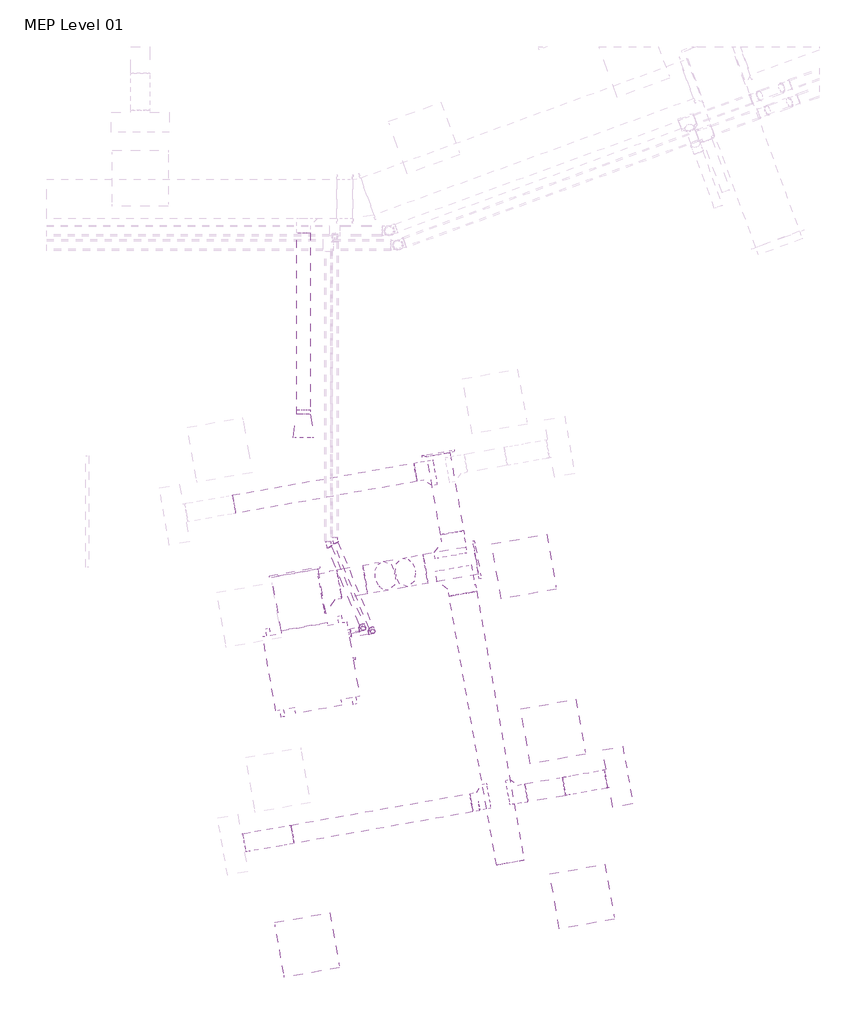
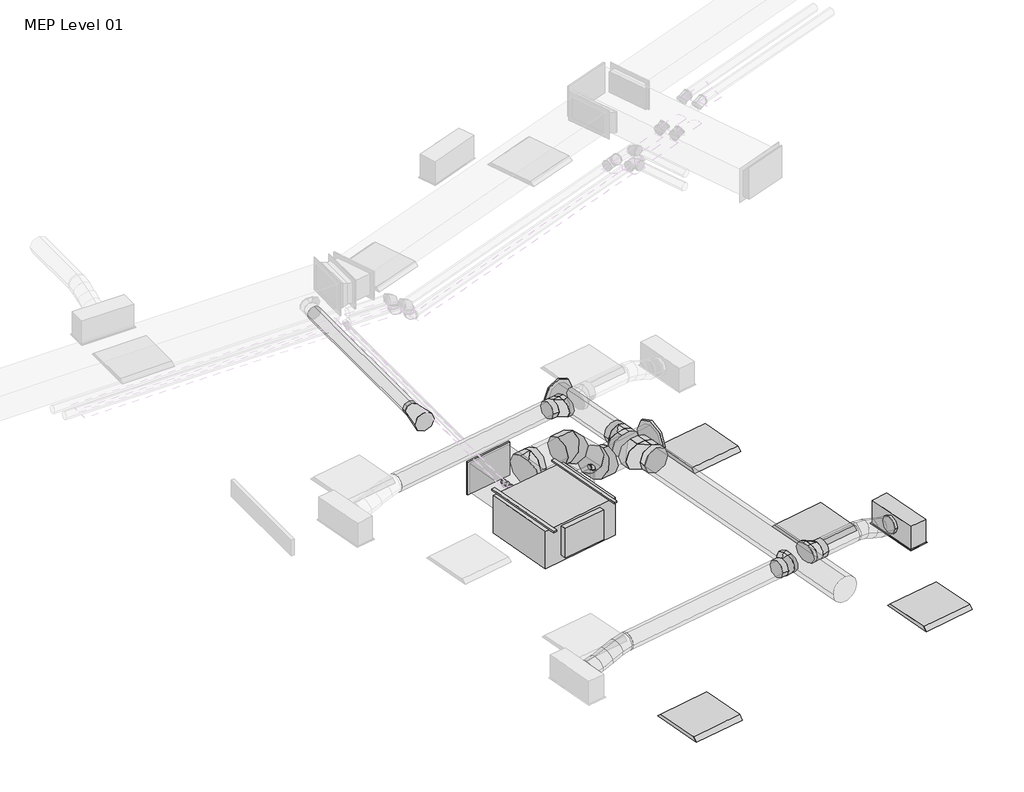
# One storey, part 15 of 29: 12 duct segments, 11 duct fittings, 6 pipe fittings, 6 pipe segments, 4 light fixtures, 2 air terminals, 1 proxy.
"""IFC4 building model written with IfcOpenShell, lengths in millimetres."""

from ifc_helpers import new_model, si_unit, point, frame, frame_2d, origin, place, context, project, spatial, polyline, circle_curve, ellipse_curve, trimmed, segment, composite_curve, outline, extrude, transform, mapped, element, save
from ifc_brep_helpers import plane_surface, cylinder_surface, advanced_brep
from components import air_terminal_b88b8e4d, supply_diffuser_with_plenum_linear_slot_hosted_8e4f2f20, fan_coil_unit_ceiling_ducted_chw_376_lps_48d57206, dw144_rectangular_blank_end_standard_8fde7d16, dw144_round_blank_end_standard_9aa061e7, dw144_round_blank_end_standard_4853e871, dw144_round_segmented_bend_slip_joint_standard_b708e37c, dw144_round_shoe_branch_slip_joint_standard_559552f4, dw144_round_shoe_branch_slip_joint_standard_3a899113, dw144_round_shoe_branch_slip_joint_standard_809a1802, dw144_round_shoe_branch_slip_joint_standard_2e838f3e, dw144_round_shoe_branch_slip_joint_standard_78bd87b2, light_fixture_600x600_230_1c7c1157, light_fixture_600x600_230_b730b5ca, elbow_threaded_gmi_standard_b4aa7741, elbow_threaded_gmi_standard_b1050e4a

model = new_model("IFC4")

# Units and contexts
model_context = context("Model", 3, world=origin())
ifc_project = project(units=[si_unit("LENGTHUNIT", "METRE", prefix="MILLI")], contexts=[model_context])

# Site, building, storey
site = spatial("IfcSite", under=ifc_project)
building = spatial("IfcBuilding", under=site)
storey = spatial("IfcBuildingStorey", under=building, Name="MEP Level 01", Elevation=3900.0)

# Air terminals
placement = place(None, origin())
air_terminal_shape = air_terminal_b88b8e4d(model_context)
element("IfcAirTerminal", 1, ObjectType="Supply_Bell_Mouth_Grille : Supply_Bell_Mouth_Grille", at=placement, inside=storey, context=model_context, shape_type="MappedRepresentation", body=[
    mapped(air_terminal_shape, transform((32516.0156498, 6826.9163123, 7025.0), x_axis=(0.0, -1.0, 0.0), y_axis=(1.0, 0.0, 0.0), z_axis=(0.0, 0.0, 1.0))),
])
supply_diffuser_with_plenum_linear_slot_hosted_shape = supply_diffuser_with_plenum_linear_slot_hosted_8e4f2f20(model_context)
element("IfcAirTerminal", 2, ObjectType="Supply Diffuser with Plenum - Linear Slot - Hosted : 600mmx193.8mm-200 In Inlet  4-Slot", at=placement, inside=storey, context=model_context, shape_type="MappedRepresentation", body=[
    mapped(supply_diffuser_with_plenum_linear_slot_hosted_shape, transform((35891.5400303, 2932.607447, 6700.0), x_axis=(0.1736481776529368, -0.9848077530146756, 0.0), y_axis=(-0.9848077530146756, -0.1736481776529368, 0.0), z_axis=(0.0, 0.0, -1.0))),
])

# Proxy
fan_coil_unit_ceiling_ducted_chw_376_lps_shape = fan_coil_unit_ceiling_ducted_chw_376_lps_48d57206(model_context)
element("IfcBuildingElementProxy", 3, Name="Fan Coil Unit - Ceiling Ducted - CHW : 376 LPS", ObjectType="Fan Coil Unit - Ceiling Ducted - CHW : 376 LPS", at=placement, inside=storey, context=model_context, shape_type="MappedRepresentation", body=[
    mapped(fan_coil_unit_ceiling_ducted_chw_376_lps_shape, transform((32078.1076261, 4440.8551668, 7115.575), x_axis=(0.9848077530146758, 0.17364817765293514, 0.0), y_axis=(-0.17364817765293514, 0.9848077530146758, 0.0), z_axis=(0.0, 0.0, 1.0))),
])

# Duct fittings
dw144_rectangular_blank_end_standard_shape = dw144_rectangular_blank_end_standard_8fde7d16(model_context)
element("IfcDuctFitting", 4, ObjectType="DW144 Rectangular Blank End : Standard", at=placement, inside=storey, context=model_context, shape_type="MappedRepresentation", body=[
    mapped(dw144_rectangular_blank_end_standard_shape, transform((32422.2764887, 5121.8864184, 7369.575), x_axis=(-0.17364817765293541, 0.9848077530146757, 0.0), y_axis=(-0.9848077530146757, -0.17364817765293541, 0.0), z_axis=(0.0, 0.0, 1.0))),
])
dw144_round_blank_end_standard_shape = dw144_round_blank_end_standard_9aa061e7(model_context)
element("IfcDuctFitting", 5, ObjectType="DW144 Round Blank End : Standard", at=placement, inside=storey, context=model_context, shape_type="MappedRepresentation", body=[
    mapped(dw144_round_blank_end_standard_shape, transform((33964.3374984, 6395.1276548, 6972.2088531), x_axis=(-0.17364817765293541, 0.9848077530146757, 0.0), y_axis=(-0.9848077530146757, -0.17364817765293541, 0.0), z_axis=(0.0, 0.0, 1.0))),
])
dw144_round_blank_end_standard_2_shape = dw144_round_blank_end_standard_4853e871(model_context)
element("IfcDuctFitting", 6, ObjectType="DW144 Round Blank End : Standard", at=placement, inside=storey, context=model_context, shape_type="MappedRepresentation", body=[
    mapped(dw144_round_blank_end_standard_2_shape, transform((34369.0625875, 5262.3090931, 6972.2088531), x_axis=(0.9848077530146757, 0.17364817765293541, 0.0), y_axis=(-0.17364817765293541, 0.9848077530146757, 0.0), z_axis=(0.0, 0.0, 1.0))),
])
dw144_round_segmented_bend_slip_joint_standard_shape = dw144_round_segmented_bend_slip_joint_standard_b708e37c(model_context)
element("IfcDuctFitting", 7, ObjectType="DW144 Round Segmented Bend - Slip Joint : Standard", at=placement, inside=storey, context=model_context, shape_type="MappedRepresentation", body=[
    mapped(dw144_round_segmented_bend_slip_joint_standard_shape, transform((33698.5416533, 5144.0781613, 6972.2088531), x_axis=(0.6963642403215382, 0.12278780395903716, -0.7071067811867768), y_axis=(-0.6963642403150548, -0.1227878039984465, -0.7071067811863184), z_axis=(-0.17364817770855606, 0.9848077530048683, 0.0))),
])
element("IfcDuctFitting", 8, ObjectType="DW144 Round Segmented Bend - Slip Joint : Standard", at=placement, inside=storey, context=model_context, shape_type="MappedRepresentation", body=[
    mapped(dw144_round_segmented_bend_slip_joint_standard_shape, transform((33307.2123911, 5075.0762541, 7369.575), x_axis=(0.9848077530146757, 0.17364817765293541, 0.0), y_axis=(0.0, 0.0, 1.0), z_axis=(0.17364817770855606, -0.9848077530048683, 0.0))),
])
dw144_round_shoe_branch_slip_joint_standard_shape = dw144_round_shoe_branch_slip_joint_standard_559552f4(model_context)
element("IfcDuctFitting", 9, ObjectType="DW144 Round Shoe Branch - Slip Joint : Standard", at=placement, inside=storey, context=model_context, shape_type="MappedRepresentation", body=[
    mapped(dw144_round_shoe_branch_slip_joint_standard_shape, transform((33866.3411855, 6231.0460521, 6972.2088531), x_axis=(-0.9848077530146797, -0.17364817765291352, 0.0), y_axis=(0.17364817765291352, -0.9848077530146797, 0.0), z_axis=(0.0, 0.0, 1.0))),
])
dw144_round_shoe_branch_slip_joint_standard_2_shape = dw144_round_shoe_branch_slip_joint_standard_3a899113(model_context)
element("IfcDuctFitting", 10, ObjectType="DW144 Round Shoe Branch - Slip Joint : Standard", at=placement, inside=storey, context=model_context, shape_type="MappedRepresentation", body=[
    mapped(dw144_round_shoe_branch_slip_joint_standard_2_shape, transform((34466.8544313, 2681.3969368, 6972.2088531), x_axis=(-0.9848077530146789, -0.17364817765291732, 0.0), y_axis=(0.17364817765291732, -0.9848077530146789, 0.0), z_axis=(0.0, 0.0, 1.0))),
])
element("IfcDuctFitting", 11, ObjectType="DW144 Round Shoe Branch - Slip Joint : Standard", at=placement, inside=storey, context=model_context, shape_type="MappedRepresentation", body=[
    mapped(dw144_round_shoe_branch_slip_joint_standard_2_shape, transform((34762.2967572, 2733.4913901, 6972.2088531), x_axis=(0.9848077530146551, 0.1736481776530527, 0.0), y_axis=(0.1736481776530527, -0.9848077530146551, 0.0), z_axis=(0.0, 0.0, -1.0))),
])
dw144_round_shoe_branch_slip_joint_standard_3_shape = dw144_round_shoe_branch_slip_joint_standard_809a1802(model_context)
element("IfcDuctFitting", 12, ObjectType="DW144 Round Shoe Branch - Slip Joint : Standard", at=placement, inside=storey, context=model_context, shape_type="MappedRepresentation", body=[
    mapped(dw144_round_shoe_branch_slip_joint_standard_3_shape, transform((32703.167519, 4968.5668456, 7369.575), x_axis=(0.9848077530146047, 0.17364817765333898, 0.0), y_axis=(-0.17364817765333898, 0.9848077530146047, 0.0), z_axis=(0.0, 0.0, 1.0))),
])
dw144_round_shoe_branch_slip_joint_standard_4_shape = dw144_round_shoe_branch_slip_joint_standard_2e838f3e(model_context)
element("IfcDuctFitting", 13, ObjectType="DW144 Round Shoe Branch - Slip Joint : Standard", at=placement, inside=storey, context=model_context, shape_type="MappedRepresentation", body=[
    mapped(dw144_round_shoe_branch_slip_joint_standard_4_shape, transform((34142.9152485, 5382.362907, 6972.2088531), x_axis=(-0.17364817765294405, 0.9848077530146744, 0.0), y_axis=(0.9848077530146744, 0.17364817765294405, 0.0), z_axis=(0.0, 0.0, -1.0))),
])
dw144_round_shoe_branch_slip_joint_standard_5_shape = dw144_round_shoe_branch_slip_joint_standard_78bd87b2(model_context)
element("IfcDuctFitting", 14, ObjectType="DW144 Round Shoe Branch - Slip Joint : Standard", at=placement, inside=storey, context=model_context, shape_type="MappedRepresentation", body=[
    mapped(dw144_round_shoe_branch_slip_joint_standard_5_shape, transform((34197.6144245, 5072.1484648, 6972.2088531), x_axis=(0.17364817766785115, -0.9848077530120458, 0.0), y_axis=(0.9848077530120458, 0.17364817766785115, 0.0), z_axis=(0.0, 0.0, 1.0))),
])

# Duct segments
element("IfcDuctSegment", 15, ObjectType="DW144 Flanged Med Radius Bend / Shoe Branch", at=placement, inside=storey, context=model_context, shape_type="SweptSolid", body=[
    extrude(outline(polyline([(32770.1530053, 4588.6732749), (32277.7491288, 4501.8491861), (32176.0745504, 5078.474374), (32668.4784269, 5165.2984628), (32770.1530053, 4588.6732749)])), frame((0.0, 0.0, 7194.575), z_axis=(0.0, 0.0, 1.0), x_axis=(1.0, 0.0, 0.0)), (0.0, 0.0, 1.0), 350.0),
])
element("IfcDuctSegment", 16, ObjectType="DW144 Segmented Bend / Shoe Branch", at=placement, inside=storey, context=model_context, shape_type="SweptSolid", body=[
    extrude(outline(composite_curve([segment(trimmed(circle_curve(frame_2d((0.0, 157.5)), 157.5), [point((157.5, 157.5))], [point((0.0, 0.0))], False, "CARTESIAN"), True, "CONTINUOUS"), segment(trimmed(circle_curve(frame_2d((0.0, 157.5)), 157.5), [point((0.0, 0.0))], [point((-157.5, 157.5))], False, "CARTESIAN"), True, "CONTINUOUS"), segment(trimmed(circle_curve(frame_2d((0.0, 157.5)), 157.5), [point((-157.5, 157.5))], [point((0.0, 315.0))], False, "CARTESIAN"), True, "CONTINUOUS"), segment(trimmed(circle_curve(frame_2d((0.0, 157.5)), 157.5), [point((0.0, 315.0))], [point((157.5, 157.5))], False, "CARTESIAN"), True, "CONTINUOUS")], self_intersect=False)), frame((32900.1290696, 5003.2964811, 7527.075), z_axis=(0.9848077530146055, 0.17364817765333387, 0.0), x_axis=(0.17364817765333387, -0.9848077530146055, 0.0)), (0.0, 0.0, 1.0), 282.8859657),
])
element("IfcDuctSegment", 17, ObjectType="DW144 Segmented Bend / Shoe Branch", at=placement, inside=storey, context=model_context, shape_type="SweptSolid", body=[
    extrude(outline(composite_curve([segment(trimmed(circle_curve(frame_2d((0.0, 157.5)), 157.5), [point((-157.5, 157.5))], [point((0.0, 315.0))], False, "CARTESIAN"), True, "CONTINUOUS"), segment(trimmed(circle_curve(frame_2d((0.0, 157.5)), 157.5), [point((0.0, 315.0))], [point((157.5, 157.5))], False, "CARTESIAN"), True, "CONTINUOUS"), segment(trimmed(circle_curve(frame_2d((0.0, 157.5)), 157.5), [point((157.5, 157.5))], [point((0.0, 0.0))], False, "CARTESIAN"), True, "CONTINUOUS"), segment(trimmed(circle_curve(frame_2d((0.0, 157.5)), 157.5), [point((0.0, 0.0))], [point((-157.5, 157.5))], False, "CARTESIAN"), True, "CONTINUOUS")], self_intersect=False)), frame((33827.0366825, 5166.7353019, 7129.7088531), z_axis=(0.9848077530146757, 0.17364817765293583, 0.0), x_axis=(0.17364817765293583, -0.9848077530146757, 0.0)), (0.0, 0.0, 1.0), 550.3875282),
])
element("IfcDuctSegment", 18, ObjectType="DW144 Segmented Bend / Shoe Branch", at=placement, inside=storey, context=model_context, shape_type="SweptSolid", body=[
    extrude(outline(composite_curve([segment(trimmed(circle_curve(frame_2d((1e-07, -157.5)), 157.5), [point((38.1078788, -310.3202853))], [point((-152.8202852, -195.6078788))], False, "CARTESIAN"), True, "CONTINUOUS"), segment(trimmed(circle_curve(frame_2d((1e-07, -157.5)), 157.5), [point((-152.8202852, -195.6078788))], [point((-38.1078787, -4.6797148))], False, "CARTESIAN"), True, "CONTINUOUS"), segment(trimmed(circle_curve(frame_2d((1e-07, -157.5)), 157.5), [point((-38.1078787, -4.6797148))], [point((152.8202853, -119.3921213))], False, "CARTESIAN"), True, "CONTINUOUS"), segment(trimmed(circle_curve(frame_2d((1e-07, -157.5)), 157.5), [point((152.8202853, -119.3921213))], [point((38.1078788, -310.3202853))], False, "CARTESIAN"), True, "CONTINUOUS")], self_intersect=False)), frame((33607.6819468, 5283.2349281, 7091.4165565), z_axis=(-0.6963642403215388, -0.1227878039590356, 0.7071067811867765), x_axis=(0.7176885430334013, -0.11913947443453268, 0.6860968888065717)), (0.0, 0.0, 1.0), 301.0060498),
])
element("IfcDuctSegment", 19, ObjectType="DW144 Segmented Bend / Shoe Branch", at=placement, inside=storey, context=model_context, shape_type="SweptSolid", body=[
    extrude(outline(composite_curve([segment(trimmed(circle_curve(frame_2d((0.0, 125.0)), 125.0), [point((125.0, 125.0))], [point((0.0, 0.0))], False, "CARTESIAN"), True, "CONTINUOUS"), segment(trimmed(circle_curve(frame_2d((0.0, 125.0)), 125.0), [point((0.0, 0.0))], [point((-125.0000001, 125.0))], False, "CARTESIAN"), True, "CONTINUOUS"), segment(trimmed(circle_curve(frame_2d((0.0, 125.0)), 125.0), [point((-125.0000001, 125.0))], [point((0.0, 250.0))], False, "CARTESIAN"), True, "CONTINUOUS"), segment(trimmed(circle_curve(frame_2d((0.0, 125.0)), 125.0), [point((0.0, 250.0))], [point((125.0, 125.0))], False, "CARTESIAN"), True, "CONTINUOUS")], self_intersect=False)), frame((34112.5268175, 5554.7042638, 7097.2088531), z_axis=(-0.17364817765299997, 0.9848077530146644, 0.0), x_axis=(0.9848077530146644, 0.17364817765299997, 0.0)), (0.0, 0.0, 1.0), 853.3882764),
])
element("IfcDuctSegment", 20, ObjectType="DW144 Segmented Bend / Shoe Branch", at=placement, inside=storey, context=model_context, shape_type="SweptSolid", body=[
    extrude(outline(composite_curve([segment(trimmed(circle_curve(frame_2d((0.0, 100.0)), 100.0), [point((100.0, 100.0))], [point((0.0, 0.0))], False, "CARTESIAN"), True, "CONTINUOUS"), segment(trimmed(circle_curve(frame_2d((0.0, 100.0)), 100.0), [point((0.0, 0.0))], [point((-100.0, 100.0))], False, "CARTESIAN"), True, "CONTINUOUS"), segment(trimmed(circle_curve(frame_2d((0.0, 100.0)), 100.0), [point((-100.0, 100.0))], [point((0.0, 200.0))], False, "CARTESIAN"), True, "CONTINUOUS"), segment(trimmed(circle_curve(frame_2d((0.0, 100.0)), 100.0), [point((0.0, 200.0))], [point((100.0, 100.0))], False, "CARTESIAN"), True, "CONTINUOUS")], self_intersect=False)), frame((34910.0179201, 2759.5386168, 7072.2088531), z_axis=(0.9848077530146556, 0.1736481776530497, 0.0), x_axis=(0.1736481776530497, -0.9848077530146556, 0.0)), (0.0, 0.0, 1.0), 410.0),
])
element("IfcDuctSegment", 21, ObjectType="DW144 Segmented Bend / Shoe Branch", at=placement, inside=storey, context=model_context, shape_type="SweptSolid", body=[
    extrude(outline(composite_curve([segment(trimmed(circle_curve(frame_2d((0.0, -100.0)), 100.0), [point((-100.0, -100.0))], [point((0.0, 0.0))], False, "CARTESIAN"), True, "CONTINUOUS"), segment(trimmed(circle_curve(frame_2d((0.0, -100.0)), 100.0), [point((0.0, 0.0))], [point((100.0, -100.0))], False, "CARTESIAN"), True, "CONTINUOUS"), segment(trimmed(circle_curve(frame_2d((0.0, -100.0)), 100.0), [point((100.0, -100.0))], [point((0.0, -200.0))], False, "CARTESIAN"), True, "CONTINUOUS"), segment(trimmed(circle_curve(frame_2d((0.0, -100.0)), 100.0), [point((0.0, -200.0))], [point((-100.0, -100.0))], False, "CARTESIAN"), True, "CONTINUOUS")], self_intersect=False)), frame((32398.75815, 2316.7357638, 6872.2088531), z_axis=(0.9848077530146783, 0.1736481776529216, 0.0), x_axis=(0.1736481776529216, -0.9848077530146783, 0.0)), (0.0, 0.0, 1.0), 1950.0),
])
element("IfcDuctSegment", 22, ObjectType="DW144 Segmented Bend / Shoe Branch", at=placement, inside=storey, context=model_context, shape_type="SweptSolid", body=[
    extrude(outline(composite_curve([segment(trimmed(circle_curve(frame_2d((0.0, -150.0)), 150.0), [point((-150.0, -150.0))], [point((0.0, 0.0))], False, "CARTESIAN"), True, "CONTINUOUS"), segment(trimmed(circle_curve(frame_2d((0.0, -150.0)), 150.0), [point((0.0, 0.0))], [point((150.0, -150.0))], False, "CARTESIAN"), True, "CONTINUOUS"), segment(trimmed(circle_curve(frame_2d((0.0, -150.0)), 150.0), [point((150.0, -150.0))], [point((0.0, -300.0))], False, "CARTESIAN"), True, "CONTINUOUS"), segment(trimmed(circle_curve(frame_2d((0.0, -150.0)), 150.0), [point((0.0, -300.0))], [point((-150.0, -150.0))], False, "CARTESIAN"), True, "CONTINUOUS")], self_intersect=False)), frame((34737.6074608, 2009.6957754, 6822.2088531), z_axis=(-0.17364817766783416, 0.9848077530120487, 0.0), x_axis=(0.9848077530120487, 0.17364817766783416, 0.0)), (0.0, 0.0, 1.0), 2934.6959585),
])
element("IfcDuctSegment", 23, ObjectType="DW144 Segmented Bend / Shoe Branch", at=placement, inside=storey, context=model_context, shape_type="SweptSolid", body=[
    extrude(outline(composite_curve([segment(trimmed(circle_curve(frame_2d((0.0, 100.0)), 100.0), [point((100.0, 100.0))], [point((0.0, 0.0))], False, "CARTESIAN"), True, "CONTINUOUS"), segment(trimmed(circle_curve(frame_2d((0.0, 100.0)), 100.0), [point((0.0, 0.0))], [point((-100.0, 100.0))], False, "CARTESIAN"), True, "CONTINUOUS"), segment(trimmed(circle_curve(frame_2d((0.0, 100.0)), 100.0), [point((-100.0, 100.0))], [point((0.0, 200.0))], False, "CARTESIAN"), True, "CONTINUOUS"), segment(trimmed(circle_curve(frame_2d((0.0, 100.0)), 100.0), [point((0.0, 200.0))], [point((100.0, 100.0))], False, "CARTESIAN"), True, "CONTINUOUS")], self_intersect=False)), frame((31773.6247104, 5862.0436746, 7072.2088531), z_axis=(0.9848077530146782, 0.17364817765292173, 0.0), x_axis=(0.17364817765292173, -0.9848077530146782, 0.0)), (0.0, 0.0, 1.0), 1975.0),
])
element("IfcDuctSegment", 24, ObjectType="DW144 Segmented Bend / Shoe Branch", at=placement, inside=storey, context=model_context, shape_type="SweptSolid", body=[
    extrude(outline(composite_curve([segment(trimmed(circle_curve(frame_2d((7025.0, 32516.0156498)), 75.0), [point((7025.0, 32441.0156498))], [point((6950.0, 32516.0156498))], False, "CARTESIAN"), True, "CONTINUOUS"), segment(trimmed(circle_curve(frame_2d((7025.0, 32516.0156498)), 75.0), [point((6950.0, 32516.0156498))], [point((7025.0, 32591.0156498))], False, "CARTESIAN"), True, "CONTINUOUS"), segment(trimmed(circle_curve(frame_2d((7025.0, 32516.0156498)), 75.0), [point((7025.0, 32591.0156498))], [point((7100.0, 32516.0156498))], False, "CARTESIAN"), True, "CONTINUOUS"), segment(trimmed(circle_curve(frame_2d((7025.0, 32516.0156498)), 75.0), [point((7100.0, 32516.0156498))], [point((7025.0, 32441.0156498))], False, "CARTESIAN"), True, "CONTINUOUS")], self_intersect=False)), frame((0.0, 6826.9163123, 0.0), z_axis=(0.0, 1.0, 0.0), x_axis=(0.0, 0.0, 1.0)), (0.0, 0.0, 1.0), 1950.0),
])
element("IfcDuctSegment", 25, ObjectType="Flex - Round", at=placement, inside=storey, context=model_context, shape_type="AdvancedBrep", body=[
    advanced_brep(
    [(32416.1229677, 2218.2549885, 6972.2088531), (32398.75815, 2316.7357638, 6872.2088531), (32381.3933322, 2415.2165391, 6972.2088531), (32398.75815, 2316.7357638, 7072.2088531), (32402.5549785, 2215.8625859, 6972.2088531), (32392.7898887, 2315.6833983, 6872.2088531), (32367.825343, 2412.8241365, 6972.2088531), (32377.5904327, 2313.0033241, 7072.2088531), (31899.6540048, 2127.1875756, 6854.4), (31882.289187, 2225.6683509, 6954.4), (31864.9243693, 2324.1491262, 6854.4), (31882.289187, 2225.6683509, 6754.4), (32285.7990868, 2195.275372, 6953.8012198), (32290.7682954, 2297.6942388, 6856.1242166), (32251.0694513, 2392.2369226, 6953.8012198), (32246.1002427, 2289.8180559, 7051.478223), (32157.8884863, 2172.721282, 6913.3044266), (32169.8374093, 2276.3708607, 6817.8372171), (32123.1588507, 2369.6828326, 6913.3044266), (32111.2099277, 2266.0332539, 7008.771636), (32029.9778857, 2150.167192, 6872.8076333), (32034.9470943, 2252.5860588, 6775.1306301), (31995.2482502, 2347.1287427, 6872.8076333), (31990.2790416, 2244.7098759, 6970.4846365), (31913.221994, 2129.5799782, 6854.4), (31903.4569043, 2229.4007906, 6754.4), (31878.4923585, 2326.5415288, 6854.4), (31888.2574483, 2226.7207164, 6954.4)],
    [
        (0, 1, circle_curve(frame((32398.75815, 2316.7357638, 6972.2088531), z_axis=(0.9848077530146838, 0.17364817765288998, 0.0), x_axis=(0.17364817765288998, -0.9848077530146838, 0.0)), 100.0)),
        (1, 2, circle_curve(frame((32398.75815, 2316.7357638, 6972.2088531), z_axis=(0.9848077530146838, 0.17364817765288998, 0.0), x_axis=(0.17364817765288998, -0.9848077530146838, 0.0)), 100.0)),
        (2, 3, circle_curve(frame((32398.75815, 2316.7357638, 6972.2088531), z_axis=(0.9848077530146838, 0.17364817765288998, 0.0), x_axis=(0.17364817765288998, -0.9848077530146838, 0.0)), 100.0)),
        (3, 0, circle_curve(frame((32398.75815, 2316.7357638, 6972.2088531), z_axis=(0.9848077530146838, 0.17364817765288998, 0.0), x_axis=(0.17364817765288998, -0.9848077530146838, 0.0)), 100.0)),
        (0, 4),
        (4, 5, ellipse_curve(frame((32385.1901607, 2314.3433612, 6972.2088531), z_axis=(0.9818884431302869, 0.17313342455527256, 0.07694090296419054), x_axis=(0.07577199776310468, 0.013360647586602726, -0.997035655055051)), 100.2973158, 100.0)),
        (5, 1),
        (5, 6, ellipse_curve(frame((32385.1901607, 2314.3433612, 6972.2088531), z_axis=(0.9818884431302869, 0.17313342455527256, 0.07694090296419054), x_axis=(0.07577199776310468, 0.013360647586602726, -0.997035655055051)), 100.2973158, 100.0)),
        (6, 2),
        (6, 7, ellipse_curve(frame((32385.1901607, 2314.3433612, 6972.2088531), z_axis=(0.9818884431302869, 0.17313342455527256, 0.07694090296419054), x_axis=(0.07577199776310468, 0.013360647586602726, -0.997035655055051)), 100.2973158, 100.0)),
        (7, 3),
        (7, 4, ellipse_curve(frame((32385.1901607, 2314.3433612, 6972.2088531), z_axis=(0.9818884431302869, 0.17313342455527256, 0.07694090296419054), x_axis=(0.07577199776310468, 0.013360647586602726, -0.997035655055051)), 100.2973158, 100.0)),
        (8, 9, circle_curve(frame((31882.289187, 2225.6683509, 6854.4), z_axis=(-0.9848077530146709, -0.1736481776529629, 0.0), x_axis=(0.1736481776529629, -0.9848077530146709, 0.0)), 100.0)),
        (9, 10, circle_curve(frame((31882.289187, 2225.6683509, 6854.4), z_axis=(-0.9848077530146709, -0.1736481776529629, 0.0), x_axis=(0.1736481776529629, -0.9848077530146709, 0.0)), 100.0)),
        (10, 11, circle_curve(frame((31882.289187, 2225.6683509, 6854.4), z_axis=(-0.9848077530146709, -0.1736481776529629, 0.0), x_axis=(0.1736481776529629, -0.9848077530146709, 0.0)), 100.0)),
        (11, 8, circle_curve(frame((31882.289187, 2225.6683509, 6854.4), z_axis=(-0.9848077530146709, -0.1736481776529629, 0.0), x_axis=(0.1736481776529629, -0.9848077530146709, 0.0)), 100.0)),
        (4, 12),
        (12, 13, ellipse_curve(frame((32268.4342691, 2293.7561473, 6953.8012198), z_axis=(0.9592908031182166, 0.1691488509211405, 0.22616326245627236), x_axis=(0.22272733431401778, 0.03927283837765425, -0.9740894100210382)), 100.2751926, 100.0)),
        (13, 5),
        (13, 14, ellipse_curve(frame((32268.4342691, 2293.7561473, 6953.8012198), z_axis=(0.9592908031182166, 0.1691488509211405, 0.22616326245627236), x_axis=(0.22272733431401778, 0.03927283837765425, -0.9740894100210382)), 100.2751926, 100.0)),
        (14, 6),
        (14, 15, ellipse_curve(frame((32268.4342691, 2293.7561473, 6953.8012198), z_axis=(0.9592908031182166, 0.1691488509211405, 0.22616326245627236), x_axis=(0.22272733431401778, 0.03927283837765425, -0.9740894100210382)), 100.2751926, 100.0)),
        (15, 7),
        (15, 12, ellipse_curve(frame((32268.4342691, 2293.7561473, 6953.8012198), z_axis=(0.9592908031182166, 0.1691488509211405, 0.22616326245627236), x_axis=(0.22272733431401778, 0.03927283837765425, -0.9740894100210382)), 100.2751926, 100.0)),
        (12, 16),
        (16, 17, circle_curve(frame((32140.5236685, 2271.2020573, 6913.3044266), z_axis=(0.9401684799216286, 0.1657770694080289, 0.29765952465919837), x_axis=(0.17364817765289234, -0.9848077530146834, 0.0)), 100.0)),
        (17, 13),
        (17, 18, circle_curve(frame((32140.5236685, 2271.2020573, 6913.3044266), z_axis=(0.9401684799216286, 0.1657770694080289, 0.29765952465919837), x_axis=(0.17364817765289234, -0.9848077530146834, 0.0)), 100.0)),
        (18, 14),
        (18, 19, circle_curve(frame((32140.5236685, 2271.2020573, 6913.3044266), z_axis=(0.9401684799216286, 0.1657770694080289, 0.29765952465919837), x_axis=(0.17364817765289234, -0.9848077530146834, 0.0)), 100.0)),
        (19, 15),
        (19, 16, circle_curve(frame((32140.5236685, 2271.2020573, 6913.3044266), z_axis=(0.9401684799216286, 0.1657770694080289, 0.29765952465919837), x_axis=(0.17364817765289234, -0.9848077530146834, 0.0)), 100.0)),
        (16, 20),
        (20, 21, ellipse_curve(frame((32012.6130679, 2248.6479673, 6872.8076333), z_axis=(0.9592908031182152, 0.16914885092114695, 0.22616326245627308), x_axis=(-0.22272733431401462, -0.03927283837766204, 0.9740894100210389)), 100.2751926, 100.0)),
        (21, 17),
        (21, 22, ellipse_curve(frame((32012.6130679, 2248.6479673, 6872.8076333), z_axis=(0.9592908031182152, 0.16914885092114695, 0.22616326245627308), x_axis=(-0.22272733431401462, -0.03927283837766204, 0.9740894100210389)), 100.2751926, 100.0)),
        (22, 18),
        (22, 23, ellipse_curve(frame((32012.6130679, 2248.6479673, 6872.8076333), z_axis=(0.9592908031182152, 0.16914885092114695, 0.22616326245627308), x_axis=(-0.22272733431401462, -0.03927283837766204, 0.9740894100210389)), 100.2751926, 100.0)),
        (23, 19),
        (23, 20, ellipse_curve(frame((32012.6130679, 2248.6479673, 6872.8076333), z_axis=(0.9592908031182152, 0.16914885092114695, 0.22616326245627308), x_axis=(-0.22272733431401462, -0.03927283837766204, 0.9740894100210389)), 100.2751926, 100.0)),
        (20, 24),
        (24, 25, ellipse_curve(frame((31895.8571763, 2228.0607535, 6854.4), z_axis=(0.9818884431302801, 0.17313342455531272, 0.07694090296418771), x_axis=(-0.0757719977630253, -0.013360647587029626, 0.9970356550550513)), 100.2973158, 100.0)),
        (25, 21),
        (25, 26, ellipse_curve(frame((31895.8571763, 2228.0607535, 6854.4), z_axis=(0.9818884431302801, 0.17313342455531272, 0.07694090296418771), x_axis=(-0.0757719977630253, -0.013360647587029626, 0.9970356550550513)), 100.2973158, 100.0)),
        (26, 22),
        (26, 27, ellipse_curve(frame((31895.8571763, 2228.0607535, 6854.4), z_axis=(0.9818884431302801, 0.17313342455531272, 0.07694090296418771), x_axis=(-0.0757719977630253, -0.013360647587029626, 0.9970356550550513)), 100.2973158, 100.0)),
        (27, 23),
        (27, 24, ellipse_curve(frame((31895.8571763, 2228.0607535, 6854.4), z_axis=(0.9818884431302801, 0.17313342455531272, 0.07694090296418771), x_axis=(-0.0757719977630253, -0.013360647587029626, 0.9970356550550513)), 100.2973158, 100.0)),
        (24, 8),
        (11, 25),
        (10, 26),
        (9, 27),
    ],
    [
        plane_surface(frame((32398.75815, 2316.7357638, 6872.2088531), z_axis=(0.9848077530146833, 0.17364817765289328, 0.0), x_axis=(0.17364817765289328, -0.9848077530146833, 0.0))),
        cylinder_surface(frame((32398.75815, 2316.7357638, 6972.2088531), z_axis=(0.9848077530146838, 0.17364817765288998, 0.0), x_axis=(0.17364817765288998, -0.9848077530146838, 0.0)), 100.0),
        plane_surface(frame((31882.289187, 2225.6683509, 6754.4), z_axis=(-0.9848077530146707, -0.1736481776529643, 0.0), x_axis=(0.1736481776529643, -0.9848077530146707, 0.0))),
        cylinder_surface(frame((32385.1901607, 2314.3433612, 6972.2088531), z_axis=(0.9731478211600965, 0.17159221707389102, 0.15342564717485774), x_axis=(0.17364817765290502, -0.9848077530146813, 0.0)), 100.0),
        cylinder_surface(frame((32268.4342691, 2293.7561473, 6953.8012198), z_axis=(0.9401684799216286, 0.1657770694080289, 0.29765952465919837), x_axis=(0.17364817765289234, -0.9848077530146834, 0.0)), 100.0),
        cylinder_surface(frame((32140.5236685, 2271.2020573, 6913.3044266), z_axis=(0.9401684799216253, 0.16577706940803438, 0.2976595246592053), x_axis=(0.17364817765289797, -0.9848077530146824, 0.0)), 100.0),
        cylinder_surface(frame((32012.6130679, 2248.6479673, 6872.8076333), z_axis=(0.9731478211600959, 0.1715922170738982, 0.153425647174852), x_axis=(0.17364817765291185, -0.9848077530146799, 0.0)), 100.0),
        cylinder_surface(frame((31895.8571763, 2228.0607535, 6854.4), z_axis=(0.9848077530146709, 0.1736481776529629, 0.0), x_axis=(0.1736481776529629, -0.9848077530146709, 0.0)), 100.0),
    ],
    [
        (0, [[1, 2, 3, 4]]),
        (1, [[-1, 5, 6, 7]]),
        (1, [[-2, -7, 8, 9]]),
        (1, [[-3, -9, 10, 11]]),
        (1, [[-4, -11, 12, -5]]),
        (2, [[13, 14, 15, 16]]),
        (3, [[-6, 17, 18, 19]]),
        (3, [[-8, -19, 20, 21]]),
        (3, [[-10, -21, 22, 23]]),
        (3, [[-12, -23, 24, -17]]),
        (4, [[-18, 25, 26, 27]]),
        (4, [[-20, -27, 28, 29]]),
        (4, [[-22, -29, 30, 31]]),
        (4, [[-24, -31, 32, -25]]),
        (5, [[-26, 33, 34, 35]]),
        (5, [[-28, -35, 36, 37]]),
        (5, [[-30, -37, 38, 39]]),
        (5, [[-32, -39, 40, -33]]),
        (6, [[-34, 41, 42, 43]]),
        (6, [[-36, -43, 44, 45]]),
        (6, [[-38, -45, 46, 47]]),
        (6, [[-40, -47, 48, -41]]),
        (7, [[-42, 49, -16, 50]]),
        (7, [[-44, -50, -15, 51]]),
        (7, [[-46, -51, -14, 52]]),
        (7, [[-48, -52, -13, -49]]),
    ],
),
])
element("IfcDuctSegment", 26, ObjectType="Flex - Round", at=placement, inside=storey, context=model_context, shape_type="AdvancedBrep", body=[
    advanced_brep(
    [(35296.4242811, 2929.2151449, 6972.2088531), (35313.7890989, 2830.7343696, 6872.2088531), (35331.1539166, 2732.2535943, 6972.2088531), (35313.7890989, 2830.7343696, 7072.2088531), (35311.8796078, 2931.940336, 6972.2088531), (35320.2687944, 2831.8769148, 6872.2088531), (35346.6092434, 2734.9787854, 6972.2088531), (35338.2200568, 2835.0422067, 7072.2088531), (35747.2334932, 3008.7049722, 6854.4), (35764.598311, 2910.2241969, 6954.4), (35781.9631287, 2811.7434216, 6854.4), (35764.598311, 2910.2241969, 6754.4), (35410.503757, 2949.3304345, 6953.8012198), (35402.1917374, 2846.32214, 6856.9184044), (35445.2333925, 2752.3688839, 6953.8012198), (35453.545412, 2855.3771784, 7050.6840352), (35521.8288872, 2968.9600585, 6913.3044266), (35505.9805148, 2864.6229017, 6819.1631137), (35556.5585227, 2771.9985079, 6913.3044266), (35572.4068951, 2876.3356648, 7007.4457395), (35633.1540174, 2988.5896826, 6872.8076333), (35624.8419978, 2885.5813881, 6775.9248179), (35667.8836529, 2791.628132, 6872.8076333), (35676.1956724, 2894.6364265, 6969.6904487), (35731.7781665, 3005.9797811, 6854.4), (35740.1673531, 2905.9163598, 6754.4), (35766.507802, 2809.0182305, 6854.4), (35758.1186154, 2909.0816517, 6954.4)],
    [
        (0, 1, circle_curve(frame((35313.7890989, 2830.7343696, 6972.2088531), z_axis=(-0.984807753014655, -0.1736481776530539, 0.0), x_axis=(-0.1736481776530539, 0.984807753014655, 0.0)), 100.0)),
        (1, 2, circle_curve(frame((35313.7890989, 2830.7343696, 6972.2088531), z_axis=(-0.984807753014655, -0.1736481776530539, 0.0), x_axis=(-0.1736481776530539, 0.984807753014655, 0.0)), 100.0)),
        (2, 3, circle_curve(frame((35313.7890989, 2830.7343696, 6972.2088531), z_axis=(-0.984807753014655, -0.1736481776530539, 0.0), x_axis=(-0.1736481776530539, 0.984807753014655, 0.0)), 100.0)),
        (3, 0, circle_curve(frame((35313.7890989, 2830.7343696, 6972.2088531), z_axis=(-0.984807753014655, -0.1736481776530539, 0.0), x_axis=(-0.1736481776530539, 0.984807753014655, 0.0)), 100.0)),
        (0, 4),
        (4, 5, ellipse_curve(frame((35329.2444256, 2833.4595607, 6972.2088531), z_axis=(-0.9807428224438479, -0.1729314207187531, 0.09076475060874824), x_axis=(-0.08938583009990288, -0.015761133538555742, -0.9958723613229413)), 100.4144747, 100.0)),
        (5, 1),
        (5, 6, ellipse_curve(frame((35329.2444256, 2833.4595607, 6972.2088531), z_axis=(-0.9807428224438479, -0.1729314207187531, 0.09076475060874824), x_axis=(-0.08938583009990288, -0.015761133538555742, -0.9958723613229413)), 100.4144747, 100.0)),
        (6, 2),
        (6, 7, ellipse_curve(frame((35329.2444256, 2833.4595607, 6972.2088531), z_axis=(-0.9807428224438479, -0.1729314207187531, 0.09076475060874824), x_axis=(-0.08938583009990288, -0.015761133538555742, -0.9958723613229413)), 100.4144747, 100.0)),
        (7, 3),
        (7, 4, ellipse_curve(frame((35329.2444256, 2833.4595607, 6972.2088531), z_axis=(-0.9807428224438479, -0.1729314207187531, 0.09076475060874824), x_axis=(-0.08938583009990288, -0.015761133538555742, -0.9958723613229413)), 100.4144747, 100.0)),
        (8, 9, circle_curve(frame((35764.598311, 2910.2241969, 6854.4), z_axis=(0.9848077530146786, 0.1736481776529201, 0.0), x_axis=(-0.1736481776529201, 0.9848077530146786, 0.0)), 100.0)),
        (9, 10, circle_curve(frame((35764.598311, 2910.2241969, 6854.4), z_axis=(0.9848077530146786, 0.1736481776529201, 0.0), x_axis=(-0.1736481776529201, 0.9848077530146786, 0.0)), 100.0)),
        (10, 11, circle_curve(frame((35764.598311, 2910.2241969, 6854.4), z_axis=(0.9848077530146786, 0.1736481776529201, 0.0), x_axis=(-0.1736481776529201, 0.9848077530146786, 0.0)), 100.0)),
        (11, 8, circle_curve(frame((35764.598311, 2910.2241969, 6854.4), z_axis=(0.9848077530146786, 0.1736481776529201, 0.0), x_axis=(-0.1736481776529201, 0.9848077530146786, 0.0)), 100.0)),
        (4, 12),
        (12, 13, ellipse_curve(frame((35427.8685747, 2850.8496592, 6953.8012198), z_axis=(-0.9509727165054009, -0.16768214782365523, 0.2598722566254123), x_axis=(-0.25592421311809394, -0.045126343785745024, -0.9656430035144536)), 100.3298476, 100.0)),
        (13, 5),
        (13, 14, ellipse_curve(frame((35427.8685747, 2850.8496592, 6953.8012198), z_axis=(-0.9509727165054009, -0.16768214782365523, 0.2598722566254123), x_axis=(-0.25592421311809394, -0.045126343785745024, -0.9656430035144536)), 100.3298476, 100.0)),
        (14, 6),
        (14, 15, ellipse_curve(frame((35427.8685747, 2850.8496592, 6953.8012198), z_axis=(-0.9509727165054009, -0.16768214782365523, 0.2598722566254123), x_axis=(-0.25592421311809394, -0.045126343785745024, -0.9656430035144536)), 100.3298476, 100.0)),
        (15, 7),
        (15, 12, ellipse_curve(frame((35427.8685747, 2850.8496592, 6953.8012198), z_axis=(-0.9509727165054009, -0.16768214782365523, 0.2598722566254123), x_axis=(-0.25592421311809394, -0.045126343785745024, -0.9656430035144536)), 100.3298476, 100.0)),
        (12, 16),
        (16, 17, circle_curve(frame((35539.1937049, 2870.4792832, 6913.3044266), z_axis=(-0.9271109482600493, -0.16347467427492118, 0.33725557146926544), x_axis=(-0.1736481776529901, 0.9848077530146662, 0.0)), 100.0)),
        (17, 13),
        (17, 18, circle_curve(frame((35539.1937049, 2870.4792832, 6913.3044266), z_axis=(-0.9271109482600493, -0.16347467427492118, 0.33725557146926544), x_axis=(-0.1736481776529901, 0.9848077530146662, 0.0)), 100.0)),
        (18, 14),
        (18, 19, circle_curve(frame((35539.1937049, 2870.4792832, 6913.3044266), z_axis=(-0.9271109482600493, -0.16347467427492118, 0.33725557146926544), x_axis=(-0.1736481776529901, 0.9848077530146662, 0.0)), 100.0)),
        (19, 15),
        (19, 16, circle_curve(frame((35539.1937049, 2870.4792832, 6913.3044266), z_axis=(-0.9271109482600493, -0.16347467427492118, 0.33725557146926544), x_axis=(-0.1736481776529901, 0.9848077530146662, 0.0)), 100.0)),
        (16, 20),
        (20, 21, ellipse_curve(frame((35650.5188351, 2890.1089073, 6872.8076333), z_axis=(-0.95097271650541, -0.16768214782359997, 0.2598722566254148), x_axis=(0.25592421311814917, 0.045126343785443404, 0.9656430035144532)), 100.3298476, 100.0)),
        (21, 17),
        (21, 22, ellipse_curve(frame((35650.5188351, 2890.1089073, 6872.8076333), z_axis=(-0.95097271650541, -0.16768214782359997, 0.2598722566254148), x_axis=(0.25592421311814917, 0.045126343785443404, 0.9656430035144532)), 100.3298476, 100.0)),
        (22, 18),
        (22, 23, ellipse_curve(frame((35650.5188351, 2890.1089073, 6872.8076333), z_axis=(-0.95097271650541, -0.16768214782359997, 0.2598722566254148), x_axis=(0.25592421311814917, 0.045126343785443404, 0.9656430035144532)), 100.3298476, 100.0)),
        (23, 19),
        (23, 20, ellipse_curve(frame((35650.5188351, 2890.1089073, 6872.8076333), z_axis=(-0.95097271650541, -0.16768214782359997, 0.2598722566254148), x_axis=(0.25592421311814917, 0.045126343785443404, 0.9656430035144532)), 100.3298476, 100.0)),
        (20, 24),
        (24, 25, ellipse_curve(frame((35749.1429843, 2907.4990058, 6854.4), z_axis=(-0.9807428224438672, -0.17293142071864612, 0.09076475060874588), x_axis=(0.08938583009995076, 0.015761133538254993, 0.995872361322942)), 100.4144747, 100.0)),
        (25, 21),
        (25, 26, ellipse_curve(frame((35749.1429843, 2907.4990058, 6854.4), z_axis=(-0.9807428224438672, -0.17293142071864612, 0.09076475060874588), x_axis=(0.08938583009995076, 0.015761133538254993, 0.995872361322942)), 100.4144747, 100.0)),
        (26, 22),
        (26, 27, ellipse_curve(frame((35749.1429843, 2907.4990058, 6854.4), z_axis=(-0.9807428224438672, -0.17293142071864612, 0.09076475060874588), x_axis=(0.08938583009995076, 0.015761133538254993, 0.995872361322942)), 100.4144747, 100.0)),
        (27, 23),
        (27, 24, ellipse_curve(frame((35749.1429843, 2907.4990058, 6854.4), z_axis=(-0.9807428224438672, -0.17293142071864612, 0.09076475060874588), x_axis=(0.08938583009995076, 0.015761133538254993, 0.995872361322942)), 100.4144747, 100.0)),
        (24, 8),
        (11, 25),
        (10, 26),
        (9, 27),
    ],
    [
        plane_surface(frame((35313.7890989, 2830.7343696, 7072.2088531), z_axis=(-0.9848077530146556, -0.1736481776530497, 0.0), x_axis=(0.1736481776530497, -0.9848077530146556, 0.0))),
        cylinder_surface(frame((35313.7890989, 2830.7343696, 6972.2088531), z_axis=(-0.984807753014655, -0.1736481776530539, 0.0), x_axis=(-0.1736481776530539, 0.984807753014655, 0.0)), 100.0),
        plane_surface(frame((35764.598311, 2910.2241969, 6954.4), z_axis=(0.9848077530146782, 0.17364817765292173, 0.0), x_axis=(0.17364817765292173, -0.9848077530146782, 0.0))),
        cylinder_surface(frame((35329.2444256, 2833.4595607, 6972.2088531), z_axis=(-0.9685815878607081, -0.17078706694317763, 0.18078021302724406), x_axis=(-0.1736481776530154, 0.9848077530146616, 0.0)), 100.0),
        cylinder_surface(frame((35427.8685747, 2850.8496592, 6953.8012198), z_axis=(-0.9271109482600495, -0.1634746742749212, 0.3372555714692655), x_axis=(-0.1736481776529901, 0.9848077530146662, 0.0)), 100.0),
        cylinder_surface(frame((35539.1937049, 2870.4792832, 6913.3044266), z_axis=(-0.9271109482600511, -0.16347467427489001, 0.33725557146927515), x_axis=(-0.17364817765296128, 0.9848077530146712, 0.0)), 100.0),
        cylinder_surface(frame((35650.5188351, 2890.1089073, 6872.8076333), z_axis=(-0.9685815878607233, -0.17078706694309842, 0.18078021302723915), x_axis=(-0.17364817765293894, 0.9848077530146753, 0.0)), 100.0),
        cylinder_surface(frame((35749.1429843, 2907.4990058, 6854.4), z_axis=(-0.9848077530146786, -0.1736481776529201, 0.0), x_axis=(-0.1736481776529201, 0.9848077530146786, 0.0)), 100.0),
    ],
    [
        (0, [[1, 2, 3, 4]]),
        (1, [[-1, 5, 6, 7]]),
        (1, [[-2, -7, 8, 9]]),
        (1, [[-3, -9, 10, 11]]),
        (1, [[-4, -11, 12, -5]]),
        (2, [[13, 14, 15, 16]]),
        (3, [[-6, 17, 18, 19]]),
        (3, [[-8, -19, 20, 21]]),
        (3, [[-10, -21, 22, 23]]),
        (3, [[-12, -23, 24, -17]]),
        (4, [[-18, 25, 26, 27]]),
        (4, [[-20, -27, 28, 29]]),
        (4, [[-22, -29, 30, 31]]),
        (4, [[-24, -31, 32, -25]]),
        (5, [[-26, 33, 34, 35]]),
        (5, [[-28, -35, 36, 37]]),
        (5, [[-30, -37, 38, 39]]),
        (5, [[-32, -39, 40, -33]]),
        (6, [[-34, 41, 42, 43]]),
        (6, [[-36, -43, 44, 45]]),
        (6, [[-38, -45, 46, 47]]),
        (6, [[-40, -47, 48, -41]]),
        (7, [[-42, 49, -16, 50]]),
        (7, [[-44, -50, -15, 51]]),
        (7, [[-46, -51, -14, 52]]),
        (7, [[-48, -52, -13, -49]]),
    ],
),
])

# Light fixtures
light_fixture_600x600_230_shape = light_fixture_600x600_230_1c7c1157(model_context)
element("IfcLightFixture", 27, ObjectType="ELEKTRA Recessed Lighting Fixture : 600x600 - 230", at=placement, inside=storey, context=model_context, shape_type="MappedRepresentation", body=[
    mapped(light_fixture_600x600_230_shape, transform((35265.6853191, 1299.1124575, 6700.0), x_axis=(0.9848077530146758, 0.17364817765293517, 0.0), y_axis=(0.17364817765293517, -0.9848077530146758, 0.0), z_axis=(0.0, 0.0, -1.0))),
])
element("IfcLightFixture", 28, ObjectType="ELEKTRA Recessed Lighting Fixture : 600x600 - 230", at=placement, inside=storey, context=model_context, shape_type="MappedRepresentation", body=[
    mapped(light_fixture_600x600_230_shape, transform((34953.1185993, 3071.766413, 6700.0), x_axis=(0.9848077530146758, 0.17364817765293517, 0.0), y_axis=(0.17364817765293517, -0.9848077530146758, 0.0), z_axis=(0.0, 0.0, -1.0))),
])
light_fixture_600x600_230_2_shape = light_fixture_600x600_230_b730b5ca(model_context)
element("IfcLightFixture", 29, ObjectType="ELEKTRA EM Recessed Lighting Fixture : 600x600 - 230", at=placement, inside=storey, context=model_context, shape_type="MappedRepresentation", body=[
    mapped(light_fixture_600x600_230_2_shape, transform((32311.2620601, 778.1679246, 6700.0), x_axis=(0.9848077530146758, 0.17364817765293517, 0.0), y_axis=(0.17364817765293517, -0.9848077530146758, 0.0), z_axis=(0.0, 0.0, -1.0))),
])
element("IfcLightFixture", 30, ObjectType="ELEKTRA EM Recessed Lighting Fixture : 600x600 - 230", at=placement, inside=storey, context=model_context, shape_type="MappedRepresentation", body=[
    mapped(light_fixture_600x600_230_2_shape, transform((34640.5518795, 4844.4203684, 6700.0), x_axis=(0.9848077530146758, 0.17364817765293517, 0.0), y_axis=(0.17364817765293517, -0.9848077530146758, 0.0), z_axis=(0.0, 0.0, -1.0))),
])

# Pipe fittings
elbow_threaded_gmi_standard_shape = elbow_threaded_gmi_standard_b4aa7741(model_context)
element("IfcPipeFitting", 31, ObjectType="Elbow - Threaded - GMI : Standard", at=placement, inside=storey, context=model_context, shape_type="MappedRepresentation", body=[
    mapped(elbow_threaded_gmi_standard_shape, transform((33258.6487272, 4494.2653991, 6793.9343179), x_axis=(0.38268343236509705, -0.9238795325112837, 0.0), y_axis=(0.0, 0.0, 1.0), z_axis=(-0.9238795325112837, -0.38268343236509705, 0.0))),
])
element("IfcPipeFitting", 32, ObjectType="Elbow - Threaded - GMI : Standard", at=placement, inside=storey, context=model_context, shape_type="MappedRepresentation", body=[
    mapped(elbow_threaded_gmi_standard_shape, transform((33156.9501044, 4527.9168598, 6880.0), x_axis=(0.38268343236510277, -0.9238795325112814, 0.0), y_axis=(0.0, 0.0, 1.0), z_axis=(-0.9238795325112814, -0.38268343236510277, 0.0))),
])
element("IfcPipeFitting", 33, ObjectType="Elbow - Threaded - GMI : Standard", at=placement, inside=storey, context=model_context, shape_type="MappedRepresentation", body=[
    mapped(elbow_threaded_gmi_standard_shape, transform((33258.6487272, 4494.2653991, 7496.575), x_axis=(0.0, 0.0, 1.0), y_axis=(-0.9848077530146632, -0.17364817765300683, 0.0), z_axis=(0.17364817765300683, -0.9848077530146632, 0.0))),
])
element("IfcPipeFitting", 34, ObjectType="Elbow - Threaded - GMI : Standard", at=placement, inside=storey, context=model_context, shape_type="MappedRepresentation", body=[
    mapped(elbow_threaded_gmi_standard_shape, transform((33156.9501044, 4527.9168598, 7217.175), x_axis=(0.0, 0.0, 1.0), y_axis=(-0.9848077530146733, -0.1736481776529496, 0.0), z_axis=(0.1736481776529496, -0.9848077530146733, 0.0))),
])
elbow_threaded_gmi_standard_2_shape = elbow_threaded_gmi_standard_b1050e4a(model_context)
element("IfcPipeFitting", 35, ObjectType="Elbow - Threaded - GMI : Standard", at=placement, inside=storey, context=model_context, shape_type="MappedRepresentation", body=[
    mapped(elbow_threaded_gmi_standard_2_shape, transform((32783.0709173, 5430.5410641, 6880.0), x_axis=(0.0, -1.0, 0.0), y_axis=(1.0, 0.0, 0.0), z_axis=(0.0, 0.0, 1.0))),
])
element("IfcPipeFitting", 36, ObjectType="Elbow - Threaded - GMI : Standard", at=placement, inside=storey, context=model_context, shape_type="MappedRepresentation", body=[
    mapped(elbow_threaded_gmi_standard_2_shape, transform((32852.6203975, 5474.5044994, 6793.9343179), x_axis=(0.0, -1.0, 0.0), y_axis=(1.0, 0.0, 0.0), z_axis=(0.0, 0.0, 1.0))),
])

# Pipe segments
element("IfcPipeSegment", 37, ObjectType="Carbon Steel - Threaded", at=placement, inside=storey, context=model_context, shape_type="SweptSolid", body=[
    extrude(outline(composite_curve([segment(trimmed(circle_curve(frame_2d((0.0, -21.45)), 21.45), [point((-21.4499999, -21.45))], [point((0.0, 0.0))], False, "CARTESIAN"), True, "CONTINUOUS"), segment(trimmed(circle_curve(frame_2d((0.0, -21.45)), 21.45), [point((0.0, 0.0))], [point((21.45, -21.45))], False, "CARTESIAN"), True, "CONTINUOUS"), segment(trimmed(circle_curve(frame_2d((0.0, -21.45)), 21.45), [point((21.45, -21.45))], [point((0.0, -42.9))], False, "CARTESIAN"), True, "CONTINUOUS"), segment(trimmed(circle_curve(frame_2d((0.0, -21.45)), 21.45), [point((0.0, -42.9))], [point((-21.4499999, -21.45))], False, "CARTESIAN"), True, "CONTINUOUS")], self_intersect=False)), frame((33139.7293499, 4569.4914388, 6858.55), z_axis=(-0.3826834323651, 0.9238795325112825, 0.0), x_axis=(0.9238795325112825, 0.3826834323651, 0.0)), (0.0, 0.0, 1.0), 898.9933984),
])
element("IfcPipeSegment", 38, ObjectType="Carbon Steel - Threaded", at=placement, inside=storey, context=model_context, shape_type="SweptSolid", body=[
    extrude(outline(composite_curve([segment(trimmed(circle_curve(frame_2d((0.0, -21.45)), 21.45), [point((-21.45, -21.45))], [point((0.0, 0.0))], False, "CARTESIAN"), True, "CONTINUOUS"), segment(trimmed(circle_curve(frame_2d((0.0, -21.45)), 21.45), [point((0.0, 0.0))], [point((21.4499999, -21.45))], False, "CARTESIAN"), True, "CONTINUOUS"), segment(trimmed(circle_curve(frame_2d((0.0, -21.45)), 21.45), [point((21.4499999, -21.45))], [point((0.0, -42.9))], False, "CARTESIAN"), True, "CONTINUOUS"), segment(trimmed(circle_curve(frame_2d((0.0, -21.45)), 21.45), [point((0.0, -42.9))], [point((-21.45, -21.45))], False, "CARTESIAN"), True, "CONTINUOUS")], self_intersect=False)), frame((33241.4279728, 4535.839978, 6772.4843179), z_axis=(-0.38268343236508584, 0.9238795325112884, 0.0), x_axis=(0.9238795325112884, 0.38268343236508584, 0.0)), (0.0, 0.0, 1.0), 983.0031566),
])
element("IfcPipeSegment", 39, ObjectType="Carbon Steel - Threaded", at=placement, inside=storey, context=model_context, shape_type="SweptSolid", body=[
    extrude(outline(composite_curve([segment(trimmed(circle_curve(frame_2d((33258.6487272, 4494.2653991)), 21.45), [point((33237.1987272, 4494.2653991))], [point((33258.6487272, 4515.7153991))], False, "CARTESIAN"), True, "CONTINUOUS"), segment(trimmed(circle_curve(frame_2d((33258.6487272, 4494.2653991)), 21.45), [point((33258.6487272, 4515.7153991))], [point((33280.0987272, 4494.2653991))], False, "CARTESIAN"), True, "CONTINUOUS"), segment(trimmed(circle_curve(frame_2d((33258.6487272, 4494.2653991)), 21.45), [point((33280.0987272, 4494.2653991))], [point((33258.6487272, 4472.8153991))], False, "CARTESIAN"), True, "CONTINUOUS"), segment(trimmed(circle_curve(frame_2d((33258.6487272, 4494.2653991)), 21.45), [point((33258.6487272, 4472.8153991))], [point((33237.1987272, 4494.2653991))], False, "CARTESIAN"), True, "CONTINUOUS")], self_intersect=False)), frame((0.0, 0.0, 6838.9343179), z_axis=(0.0, 0.0, 1.0), x_axis=(1.0, 0.0, 0.0)), (0.0, 0.0, 1.0), 612.6406821),
])
element("IfcPipeSegment", 40, ObjectType="Carbon Steel - Threaded", at=placement, inside=storey, context=model_context, shape_type="SweptSolid", body=[
    extrude(outline(composite_curve([segment(trimmed(circle_curve(frame_2d((33156.9501044, 4527.9168598)), 21.45), [point((33135.5001044, 4527.9168598))], [point((33156.9501044, 4549.3668598))], False, "CARTESIAN"), True, "CONTINUOUS"), segment(trimmed(circle_curve(frame_2d((33156.9501044, 4527.9168598)), 21.45), [point((33156.9501044, 4549.3668598))], [point((33178.4001044, 4527.9168598))], False, "CARTESIAN"), True, "CONTINUOUS"), segment(trimmed(circle_curve(frame_2d((33156.9501044, 4527.9168598)), 21.45), [point((33178.4001044, 4527.9168598))], [point((33156.9501044, 4506.4668598))], False, "CARTESIAN"), True, "CONTINUOUS"), segment(trimmed(circle_curve(frame_2d((33156.9501044, 4527.9168598)), 21.45), [point((33156.9501044, 4506.4668598))], [point((33135.5001044, 4527.9168598))], False, "CARTESIAN"), True, "CONTINUOUS")], self_intersect=False)), frame((0.0, 0.0, 6925.0), z_axis=(0.0, 0.0, 1.0), x_axis=(1.0, 0.0, 0.0)), (0.0, 0.0, 1.0), 247.175),
])
element("IfcPipeSegment", 41, ObjectType="Carbon Steel - Threaded", at=placement, inside=storey, context=model_context, shape_type="SweptSolid", body=[
    extrude(outline(composite_curve([segment(trimmed(circle_curve(frame_2d((0.0, -21.45)), 21.45), [point((-21.45, -21.45))], [point((0.0, 0.0))], False, "CARTESIAN"), True, "CONTINUOUS"), segment(trimmed(circle_curve(frame_2d((0.0, -21.45)), 21.45), [point((0.0, 0.0))], [point((21.45, -21.45))], False, "CARTESIAN"), True, "CONTINUOUS"), segment(trimmed(circle_curve(frame_2d((0.0, -21.45)), 21.45), [point((21.45, -21.45))], [point((0.0, -42.9))], False, "CARTESIAN"), True, "CONTINUOUS"), segment(trimmed(circle_curve(frame_2d((0.0, -21.45)), 21.45), [point((0.0, -42.9))], [point((-21.45, -21.45))], False, "CARTESIAN"), True, "CONTINUOUS")], self_intersect=False)), frame((33021.2726072, 4503.9932564, 7195.725), z_axis=(0.9848077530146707, 0.1736481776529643, 0.0), x_axis=(0.1736481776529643, -0.9848077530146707, 0.0)), (0.0, 0.0, 1.0), 92.7705413),
])
element("IfcPipeSegment", 42, ObjectType="Carbon Steel - Threaded", at=placement, inside=storey, context=model_context, shape_type="SweptSolid", body=[
    extrude(outline(composite_curve([segment(trimmed(circle_curve(frame_2d((0.0, -21.45)), 21.45), [point((-21.45, -21.45))], [point((0.0, 0.0))], False, "CARTESIAN"), True, "CONTINUOUS"), segment(trimmed(circle_curve(frame_2d((0.0, -21.45)), 21.45), [point((0.0, 0.0))], [point((21.45, -21.45))], False, "CARTESIAN"), True, "CONTINUOUS"), segment(trimmed(circle_curve(frame_2d((0.0, -21.45)), 21.45), [point((21.45, -21.45))], [point((0.0, -42.9))], False, "CARTESIAN"), True, "CONTINUOUS"), segment(trimmed(circle_curve(frame_2d((0.0, -21.45)), 21.45), [point((0.0, -42.9))], [point((-21.45, -21.45))], False, "CARTESIAN"), True, "CONTINUOUS")], self_intersect=False)), frame((33030.0939346, 4453.9650226, 7475.125), z_axis=(0.9848077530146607, 0.17364817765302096, 0.0), x_axis=(0.17364817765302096, -0.9848077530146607, 0.0)), (0.0, 0.0, 1.0), 187.0806187),
])

save(model, "model.ifc")
